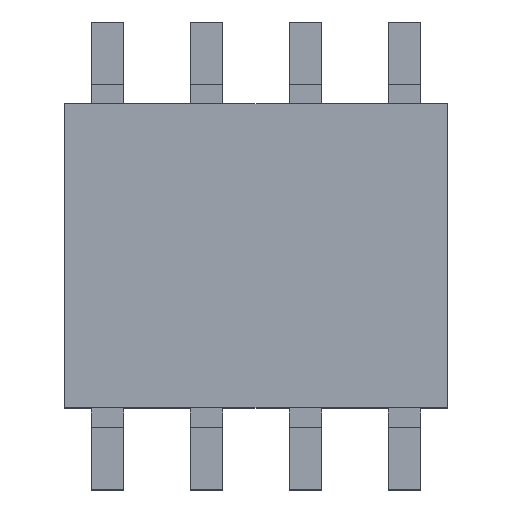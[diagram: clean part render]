
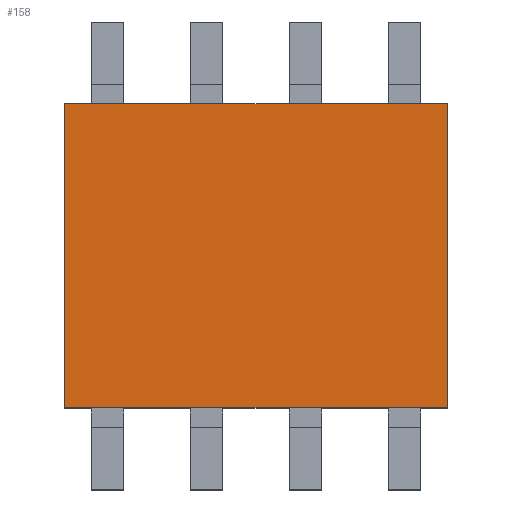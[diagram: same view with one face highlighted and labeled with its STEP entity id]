
A CAD part, top view. The second image highlights one B-rep face of the part: STEP entity #158.
In plain terms, the highlighted planar face has unit normal (0, 0, 1).
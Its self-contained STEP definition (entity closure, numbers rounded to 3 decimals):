
#46 = VERTEX_POINT('',#47);
#47 = CARTESIAN_POINT('',(-2.45,-1.95,1.625));
#62 = VERTEX_POINT('',#63);
#63 = CARTESIAN_POINT('',(-2.45,1.95,1.625));
#69 = EDGE_CURVE('',#46,#62,#70,.T.);
#70 = LINE('',#71,#72);
#71 = CARTESIAN_POINT('',(-2.45,-1.95,1.625));
#72 = VECTOR('',#73,1.);
#73 = DIRECTION('',(-0.,1.,0.));
#115 = VERTEX_POINT('',#116);
#116 = CARTESIAN_POINT('',(2.45,-1.95,1.625));
#124 = VERTEX_POINT('',#125);
#125 = CARTESIAN_POINT('',(2.45,1.95,1.625));
#131 = EDGE_CURVE('',#115,#124,#132,.T.);
#132 = LINE('',#133,#134);
#133 = CARTESIAN_POINT('',(2.45,-1.95,1.625));
#134 = VECTOR('',#135,1.);
#135 = DIRECTION('',(-0.,1.,0.));
#146 = EDGE_CURVE('',#62,#124,#147,.T.);
#147 = LINE('',#148,#149);
#148 = CARTESIAN_POINT('',(-2.45,1.95,1.625));
#149 = VECTOR('',#150,1.);
#150 = DIRECTION('',(1.,0.,0.));
#158 = ADVANCED_FACE('',(#159),#170,.T.);
#159 = FACE_BOUND('',#160,.T.);
#160 = EDGE_LOOP('',(#161,#162,#168,#169));
#161 = ORIENTED_EDGE('',*,*,#69,.F.);
#162 = ORIENTED_EDGE('',*,*,#163,.F.);
#163 = EDGE_CURVE('',#115,#46,#164,.T.);
#164 = LINE('',#165,#166);
#165 = CARTESIAN_POINT('',(2.45,-1.95,1.625));
#166 = VECTOR('',#167,1.);
#167 = DIRECTION('',(-1.,0.,0.));
#168 = ORIENTED_EDGE('',*,*,#131,.T.);
#169 = ORIENTED_EDGE('',*,*,#146,.F.);
#170 = PLANE('',#171);
#171 = AXIS2_PLACEMENT_3D('',#172,#173,#174);
#172 = CARTESIAN_POINT('',(-2.45,-1.95,1.625));
#173 = DIRECTION('',(0.,0.,1.));
#174 = DIRECTION('',(1.,0.,-0.));
